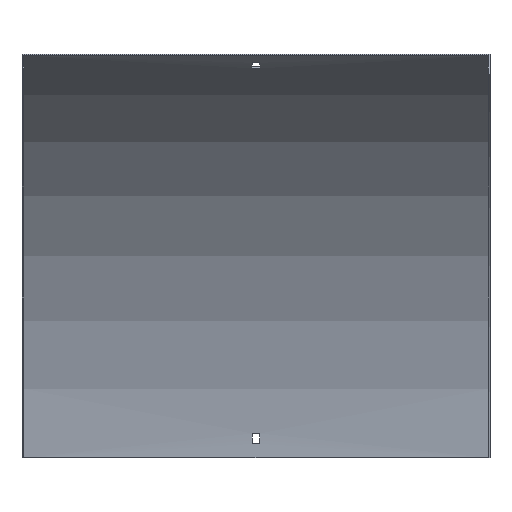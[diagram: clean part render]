
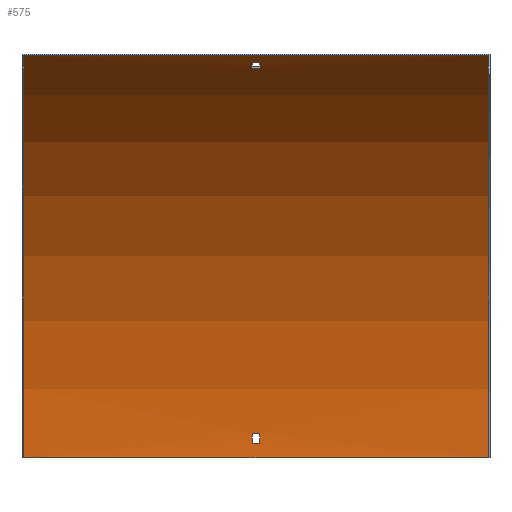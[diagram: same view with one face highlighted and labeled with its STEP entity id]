
A CAD part, front view. The second image highlights one B-rep face of the part: STEP entity #575.
In plain terms, the highlighted cylindrical face has radius 400 mm (diameter 800 mm), a partial arc.
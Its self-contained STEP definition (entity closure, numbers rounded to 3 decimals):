
#4 = DIRECTION ( 'NONE',  ( 0., 1., 0. ) ) ;
#9 = DIRECTION ( 'NONE',  ( 0., 0., -1. ) ) ;
#22 = DIRECTION ( 'NONE',  ( 0., 0., -1. ) ) ;
#27 = VECTOR ( 'NONE', #203, 1000. ) ;
#31 = AXIS2_PLACEMENT_3D ( 'NONE', #354, #261, #446 ) ;
#34 = ORIENTED_EDGE ( 'NONE', *, *, #392, .F. ) ;
#36 = ORIENTED_EDGE ( 'NONE', *, *, #415, .F. ) ;
#42 = VERTEX_POINT ( 'NONE', #340 ) ;
#43 = CYLINDRICAL_SURFACE ( 'NONE', #110, 400. ) ;
#54 = EDGE_CURVE ( 'NONE', #173, #104, #195, .T. ) ;
#65 = DIRECTION ( 'NONE',  ( 1., 0., 0. ) ) ;
#85 = VERTEX_POINT ( 'NONE', #337 ) ;
#95 = LINE ( 'NONE', #381, #476 ) ;
#102 = DIRECTION ( 'NONE',  ( -1., 0., 0. ) ) ;
#104 = VERTEX_POINT ( 'NONE', #524 ) ;
#106 = EDGE_CURVE ( 'NONE', #585, #280, #95, .T. ) ;
#110 = AXIS2_PLACEMENT_3D ( 'NONE', #131, #508, #192 ) ;
#116 = DIRECTION ( 'NONE',  ( -1., 0., 0. ) ) ;
#122 = ORIENTED_EDGE ( 'NONE', *, *, #274, .T. ) ;
#127 = LINE ( 'NONE', #540, #218 ) ;
#131 = CARTESIAN_POINT ( 'NONE',  ( 201.5, -401.5, 0. ) ) ;
#143 = CARTESIAN_POINT ( 'NONE',  ( 3.25, -183.589, 335.432 ) ) ;
#144 = VERTEX_POINT ( 'NONE', #329 ) ;
#147 = CARTESIAN_POINT ( 'NONE',  ( -200., -1.5, 0. ) ) ;
#149 = DIRECTION ( 'NONE',  ( 0., 0., 1. ) ) ;
#153 = VERTEX_POINT ( 'NONE', #432 ) ;
#157 = EDGE_CURVE ( 'NONE', #503, #411, #385, .T. ) ;
#165 = CARTESIAN_POINT ( 'NONE',  ( 3.25, -401.5, 0. ) ) ;
#167 = CARTESIAN_POINT ( 'NONE',  ( 201.5, -1.68, 12. ) ) ;
#168 = EDGE_CURVE ( 'NONE', #411, #42, #395, .T. ) ;
#171 = LINE ( 'NONE', #167, #277 ) ;
#173 = VERTEX_POINT ( 'NONE', #533 ) ;
#175 = CIRCLE ( 'NONE', #251, 400. ) ;
#178 = CARTESIAN_POINT ( 'NONE',  ( 3.25, -2.052, 21. ) ) ;
#179 = ORIENTED_EDGE ( 'NONE', *, *, #106, .T. ) ;
#180 = ORIENTED_EDGE ( 'NONE', *, *, #168, .F. ) ;
#184 = FACE_BOUND ( 'NONE', #602, .T. ) ;
#192 = DIRECTION ( 'NONE',  ( 0., 0., 1. ) ) ;
#193 = VECTOR ( 'NONE', #493, 1000. ) ;
#194 = DIRECTION ( 'NONE',  ( 1., 0., 0. ) ) ;
#195 = CIRCLE ( 'NONE', #561, 400. ) ;
#203 = DIRECTION ( 'NONE',  ( -1., 0., 0. ) ) ;
#211 = CARTESIAN_POINT ( 'NONE',  ( 201.5, -2.052, 21. ) ) ;
#215 = CIRCLE ( 'NONE', #604, 400. ) ;
#218 = VECTOR ( 'NONE', #227, 1000. ) ;
#222 = VERTEX_POINT ( 'NONE', #300 ) ;
#223 = DIRECTION ( 'NONE',  ( 1., 0., 0. ) ) ;
#227 = DIRECTION ( 'NONE',  ( 1., 0., 0. ) ) ;
#229 = FACE_OUTER_BOUND ( 'NONE', #560, .T. ) ;
#236 = DIRECTION ( 'NONE',  ( 1., 0., 0. ) ) ;
#248 = CARTESIAN_POINT ( 'NONE',  ( -3.25, -401.5, 0. ) ) ;
#251 = AXIS2_PLACEMENT_3D ( 'NONE', #521, #236, #4 ) ;
#261 = DIRECTION ( 'NONE',  ( -1., 0., 0. ) ) ;
#274 = EDGE_CURVE ( 'NONE', #104, #85, #536, .T. ) ;
#277 = VECTOR ( 'NONE', #223, 1000. ) ;
#280 = VERTEX_POINT ( 'NONE', #439 ) ;
#287 = LINE ( 'NONE', #475, #193 ) ;
#300 = CARTESIAN_POINT ( 'NONE',  ( 3.25, -1.68, 12. ) ) ;
#301 = EDGE_CURVE ( 'NONE', #42, #222, #171, .T. ) ;
#306 = CARTESIAN_POINT ( 'NONE',  ( 200., -201.5, 346.41 ) ) ;
#310 = EDGE_CURVE ( 'NONE', #153, #585, #568, .T. ) ;
#329 = CARTESIAN_POINT ( 'NONE',  ( -3.25, -191.198, 340.254 ) ) ;
#336 = CARTESIAN_POINT ( 'NONE',  ( -3.25, -2.052, 21. ) ) ;
#337 = CARTESIAN_POINT ( 'NONE',  ( -200., -201.5, 346.41 ) ) ;
#340 = CARTESIAN_POINT ( 'NONE',  ( -3.25, -1.68, 12. ) ) ;
#354 = CARTESIAN_POINT ( 'NONE',  ( 3.25, -401.5, 0. ) ) ;
#358 = ORIENTED_EDGE ( 'NONE', *, *, #492, .T. ) ;
#368 = AXIS2_PLACEMENT_3D ( 'NONE', #248, #116, #149 ) ;
#372 = DIRECTION ( 'NONE',  ( -1., 0., 0. ) ) ;
#376 = FACE_BOUND ( 'NONE', #406, .T. ) ;
#381 = CARTESIAN_POINT ( 'NONE',  ( 201.5, -183.589, 335.432 ) ) ;
#385 = LINE ( 'NONE', #211, #27 ) ;
#392 = EDGE_CURVE ( 'NONE', #400, #85, #215, .T. ) ;
#395 = CIRCLE ( 'NONE', #368, 400. ) ;
#400 = VERTEX_POINT ( 'NONE', #147 ) ;
#402 = ORIENTED_EDGE ( 'NONE', *, *, #301, .F. ) ;
#406 = EDGE_LOOP ( 'NONE', ( #180, #502, #564, #402 ) ) ;
#411 = VERTEX_POINT ( 'NONE', #336 ) ;
#415 = EDGE_CURVE ( 'NONE', #173, #400, #287, .T. ) ;
#418 = DIRECTION ( 'NONE',  ( 0., 0., -1. ) ) ;
#419 = DIRECTION ( 'NONE',  ( 1., 0., 0. ) ) ;
#420 = CIRCLE ( 'NONE', #501, 400. ) ;
#432 = CARTESIAN_POINT ( 'NONE',  ( 3.25, -191.198, 340.254 ) ) ;
#439 = CARTESIAN_POINT ( 'NONE',  ( -3.25, -183.589, 335.432 ) ) ;
#446 = DIRECTION ( 'NONE',  ( 0., 0., 1. ) ) ;
#450 = ORIENTED_EDGE ( 'NONE', *, *, #310, .T. ) ;
#469 = CARTESIAN_POINT ( 'NONE',  ( -200., -401.5, 0. ) ) ;
#475 = CARTESIAN_POINT ( 'NONE',  ( 200., -1.5, 0. ) ) ;
#476 = VECTOR ( 'NONE', #372, 1000. ) ;
#492 = EDGE_CURVE ( 'NONE', #144, #153, #127, .T. ) ;
#493 = DIRECTION ( 'NONE',  ( -1., 0., 0. ) ) ;
#501 = AXIS2_PLACEMENT_3D ( 'NONE', #165, #65, #22 ) ;
#502 = ORIENTED_EDGE ( 'NONE', *, *, #157, .F. ) ;
#503 = VERTEX_POINT ( 'NONE', #178 ) ;
#506 = ORIENTED_EDGE ( 'NONE', *, *, #565, .T. ) ;
#508 = DIRECTION ( 'NONE',  ( -1., 0., 0. ) ) ;
#521 = CARTESIAN_POINT ( 'NONE',  ( -3.25, -401.5, 0. ) ) ;
#524 = CARTESIAN_POINT ( 'NONE',  ( 200., -201.5, 346.41 ) ) ;
#527 = CARTESIAN_POINT ( 'NONE',  ( 200., -401.5, 0. ) ) ;
#533 = CARTESIAN_POINT ( 'NONE',  ( 200., -1.5, 0. ) ) ;
#536 = LINE ( 'NONE', #306, #545 ) ;
#537 = EDGE_CURVE ( 'NONE', #222, #503, #420, .T. ) ;
#540 = CARTESIAN_POINT ( 'NONE',  ( 201.5, -191.198, 340.254 ) ) ;
#545 = VECTOR ( 'NONE', #102, 1000. ) ;
#560 = EDGE_LOOP ( 'NONE', ( #34, #36, #599, #122 ) ) ;
#561 = AXIS2_PLACEMENT_3D ( 'NONE', #527, #194, #418 ) ;
#564 = ORIENTED_EDGE ( 'NONE', *, *, #537, .F. ) ;
#565 = EDGE_CURVE ( 'NONE', #280, #144, #175, .T. ) ;
#568 = CIRCLE ( 'NONE', #31, 400. ) ;
#575 = ADVANCED_FACE ( 'NONE', ( #376, #229, #184 ), #43, .F. ) ;
#585 = VERTEX_POINT ( 'NONE', #143 ) ;
#599 = ORIENTED_EDGE ( 'NONE', *, *, #54, .T. ) ;
#602 = EDGE_LOOP ( 'NONE', ( #179, #506, #358, #450 ) ) ;
#604 = AXIS2_PLACEMENT_3D ( 'NONE', #469, #419, #9 ) ;
